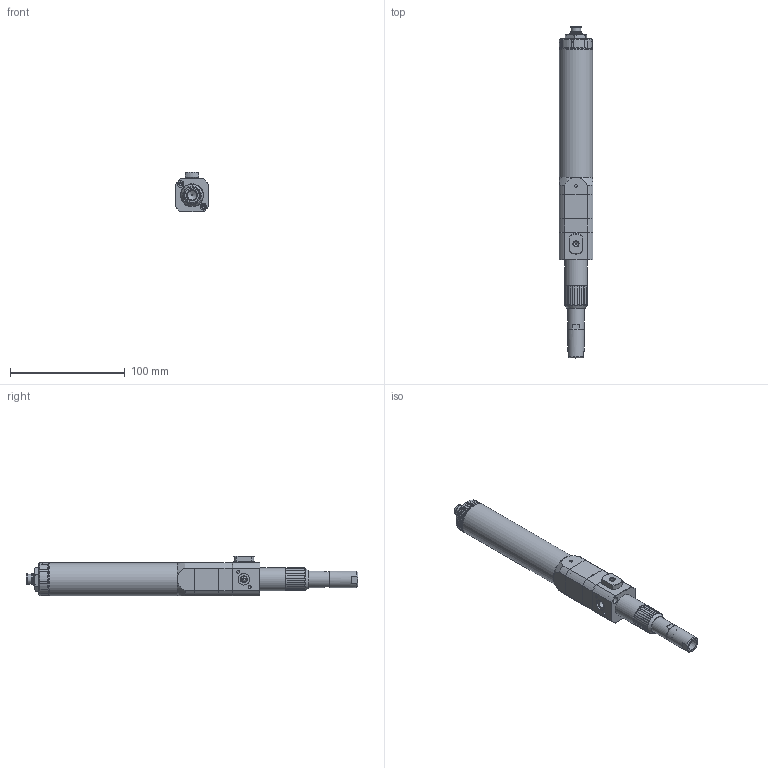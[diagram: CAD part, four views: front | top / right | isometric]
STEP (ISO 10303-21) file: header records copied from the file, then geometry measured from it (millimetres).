
FILE_DESCRIPTION (( 'STEP AP214' ), '1' );
FILE_NAME ('PCPM-150-18.STEP', '2024-10-11T11:35:10', ( '' ), ( '' ), 'SwSTEP 2.0', 'SolidWorks 2024', '' );
FILE_SCHEMA (( 'AUTOMOTIVE_DESIGN' ));
Length unit declared in the file: millimetre
Products named in the file (1): PCPM-150-18
Bounding box: 29 x 289.5 x 34.8 mm (x, y, z)
Volume: 78199.5 mm3; surface area: 74701.4 mm2
Topology: 34 solids, 34 shells, 1560 faces, 4015 edges, 2606 vertices
Faces by surface type: plane 947, cylinder 343, cone 162, bspline 63, sphere 32, torus 13
Full cylindrical faces by diameter (mm): 0.6 x1, 0.8 x4, 1 x5, 1.5 x10, 2 x1, 2.5 x10, 3 x2, 3.5 x15, 4 x1, 4.2 x1, 4.8 x1, 5 x1, 5.2 x1, 5.8 x7, 6 x8, 6.6 x4, 6.8 x1, 8 x2, 8.178 x1, 8.5 x1, 9 x5, 9.6 x2, 10 x5, 10.008 x2, 10.8 x2, 11.2 x1, 11.5 x1, 11.6 x2, 11.9 x1, 12 x1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
Entity records: 48460 total; most frequent: CARTESIAN_POINT 14558, ORIENTED_EDGE 7010, DIRECTION 6500, EDGE_CURVE 3505, AXIS2_PLACEMENT_3D 2593, VERTEX_POINT 2438, EDGE_LOOP 2095, FACE_OUTER_BOUND 1762
